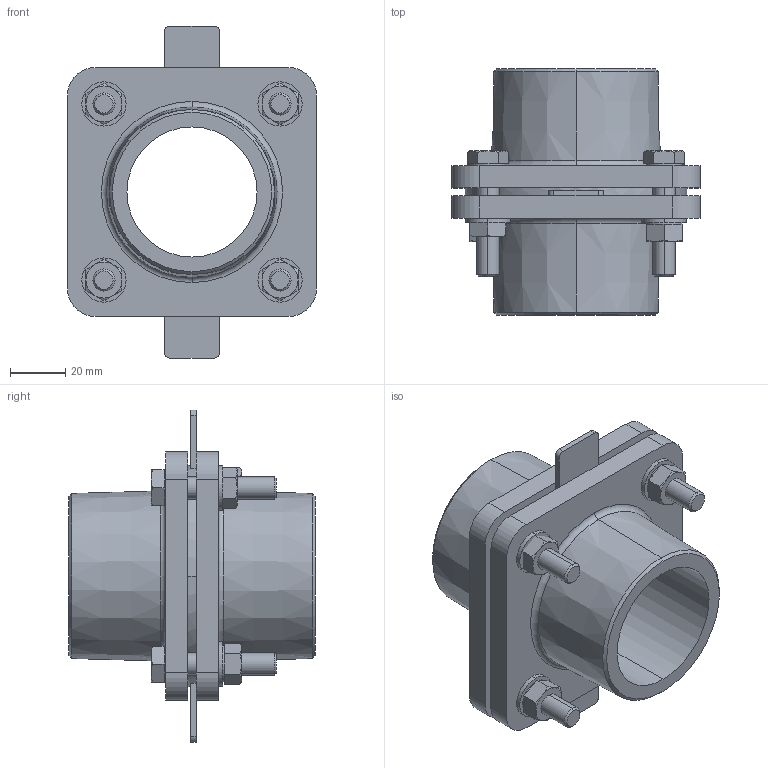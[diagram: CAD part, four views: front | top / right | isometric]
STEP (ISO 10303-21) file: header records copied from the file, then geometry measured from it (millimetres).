
FILE_DESCRIPTION (( 'STEP AP214' ), '1' );
FILE_NAME ('KP_F16-63MM.step', '2012-09-24T15:01:49', ( '' ), ( '' ), 'SwSTEP 2.0', 'SolidWorks 2012', '' );
FILE_SCHEMA (( 'AUTOMOTIVE_DESIGN' ));
Length unit declared in the file: millimetre
Products named in the file (1): KP_F16-63MM
Bounding box: 90 x 89 x 120 mm (x, y, z)
Volume: 202697.2 mm3; surface area: 75912.4 mm2
Topology: 15 solids, 15 shells, 332 faces, 728 edges, 432 vertices
Faces by surface type: plane 148, cylinder 92, cone 80, torus 12
Entity records: 13252 total; most frequent: CARTESIAN_POINT 2037, DIRECTION 1618, ORIENTED_EDGE 1456, EDGE_CURVE 728, AXIS2_PLACEMENT_3D 653, VERTEX_POINT 432, EDGE_LOOP 376, UNCERTAINTY_MEASURE_WITH_UNIT 349
